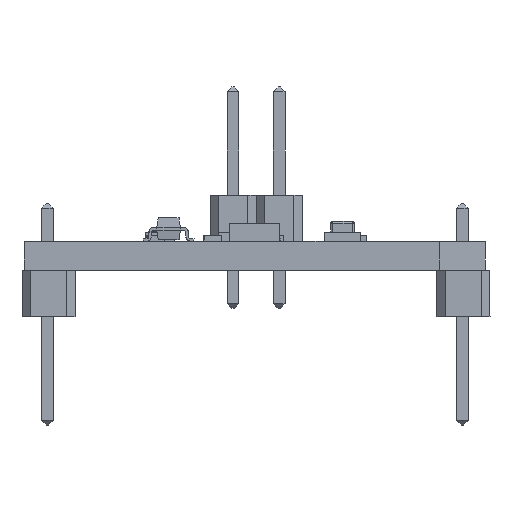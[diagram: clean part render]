
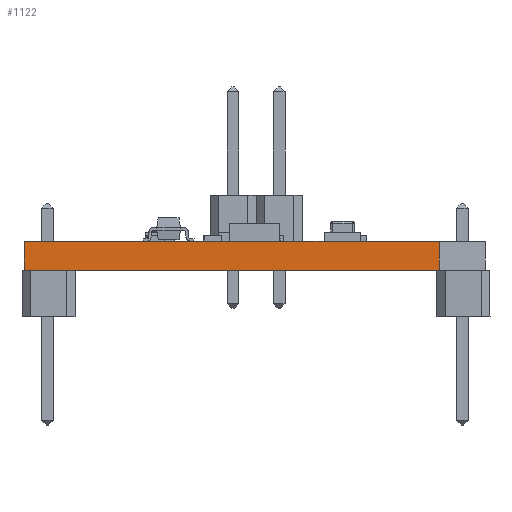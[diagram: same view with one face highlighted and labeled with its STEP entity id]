
A CAD part, front view. The second image highlights one B-rep face of the part: STEP entity #1122.
In plain terms, the highlighted planar face has unit normal (0, -1, 0).
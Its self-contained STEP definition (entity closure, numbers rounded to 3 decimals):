
#136 = EDGE_CURVE('',#137,#139,#141,.T.);
#137 = VERTEX_POINT('',#138);
#138 = CARTESIAN_POINT('',(-1.27,-3.81,-1.59));
#139 = VERTEX_POINT('',#140);
#140 = CARTESIAN_POINT('',(-1.27,-3.81,0.));
#141 = LINE('',#142,#143);
#142 = CARTESIAN_POINT('',(-1.27,-3.81,-1.59));
#143 = VECTOR('',#144,1.);
#144 = DIRECTION('',(0.,0.,1.));
#1097 = VERTEX_POINT('',#1098);
#1098 = CARTESIAN_POINT('',(21.59,-3.81,0.));
#1104 = EDGE_CURVE('',#1105,#1097,#1107,.T.);
#1105 = VERTEX_POINT('',#1106);
#1106 = CARTESIAN_POINT('',(21.59,-3.81,-1.59));
#1107 = LINE('',#1108,#1109);
#1108 = CARTESIAN_POINT('',(21.59,-3.81,-1.59));
#1109 = VECTOR('',#1110,1.);
#1110 = DIRECTION('',(0.,0.,1.));
#1122 = ADVANCED_FACE('',(#1123),#1139,.T.);
#1123 = FACE_BOUND('',#1124,.T.);
#1124 = EDGE_LOOP('',(#1125,#1126,#1132,#1133));
#1125 = ORIENTED_EDGE('',*,*,#1104,.T.);
#1126 = ORIENTED_EDGE('',*,*,#1127,.T.);
#1127 = EDGE_CURVE('',#1097,#139,#1128,.T.);
#1128 = LINE('',#1129,#1130);
#1129 = CARTESIAN_POINT('',(21.59,-3.81,0.));
#1130 = VECTOR('',#1131,1.);
#1131 = DIRECTION('',(-1.,0.,0.));
#1132 = ORIENTED_EDGE('',*,*,#136,.F.);
#1133 = ORIENTED_EDGE('',*,*,#1134,.F.);
#1134 = EDGE_CURVE('',#1105,#137,#1135,.T.);
#1135 = LINE('',#1136,#1137);
#1136 = CARTESIAN_POINT('',(21.59,-3.81,-1.59));
#1137 = VECTOR('',#1138,1.);
#1138 = DIRECTION('',(-1.,0.,0.));
#1139 = PLANE('',#1140);
#1140 = AXIS2_PLACEMENT_3D('',#1141,#1142,#1143);
#1141 = CARTESIAN_POINT('',(21.59,-3.81,-1.59));
#1142 = DIRECTION('',(0.,-1.,0.));
#1143 = DIRECTION('',(-1.,0.,0.));
